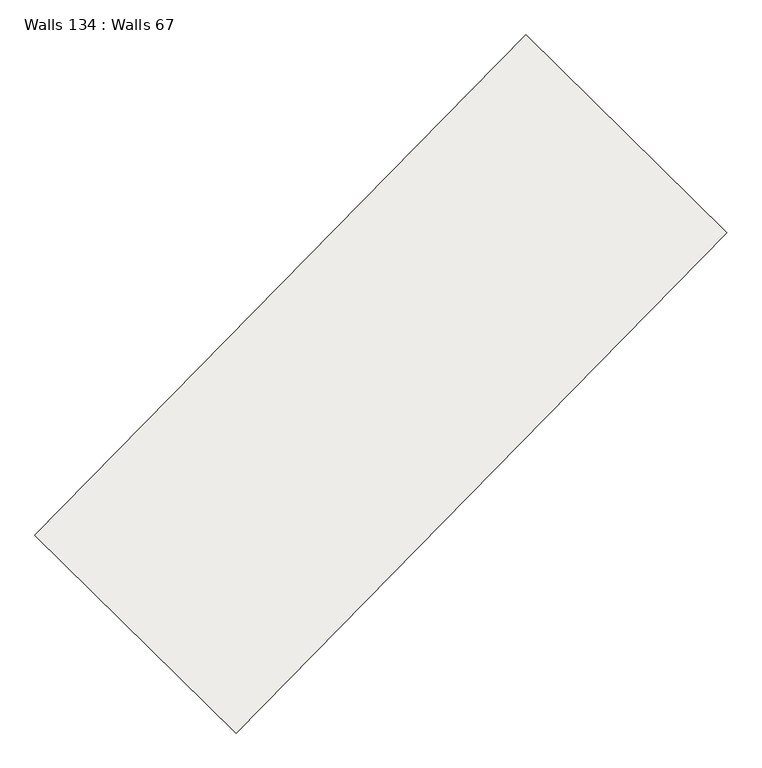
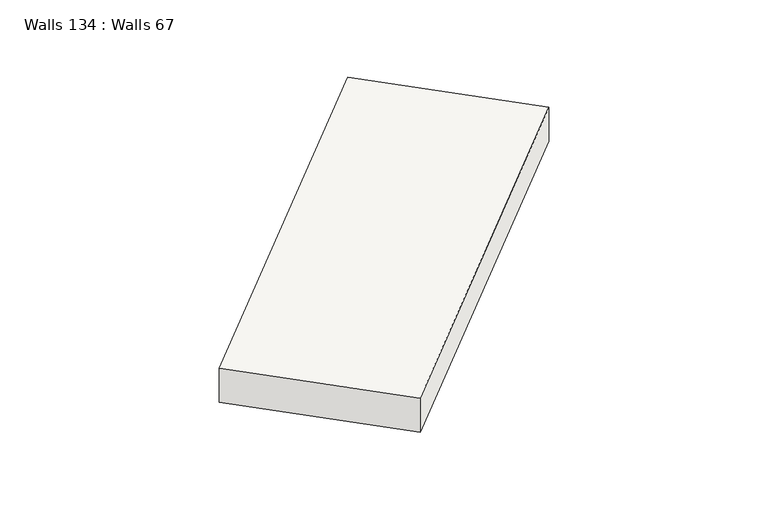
"""IFC4 building model written with IfcOpenShell, lengths in millimetres: slab geometry, Walls 134 : Walls 67."""

from ifc_helpers import new_model, si_unit, frame, origin, place, context, project, spatial, polyline, outline, extrude, source, transform, mapped, element, save


def walls_134_walls_67_9a8bfdf0(model_context):
    return source(origin(), model_context, "Body", "SweptSolid", [
        extrude(outline(polyline([(-350.0, 0.0), (350.0, 0.0), (260.0, -8700.0000009), (-440.0, -8700.0000009), (-350.0, 0.0)])), frame((24352.8632257, -134386.0892202, 638800.0), z_axis=(-0.7137361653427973, 0.7004146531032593, 0.0), x_axis=(0.0, 0.0, 1.0)), (0.0, 0.0, 1.0), 3499.999995),
    ])


if __name__ == "__main__":
    model = new_model("IFC4")
    model_context = context("Model", 3, world=origin())
    ifc_project = project(units=[si_unit("LENGTHUNIT", "METRE", prefix="MILLI")], contexts=[model_context])
    site = spatial("IfcSite", under=ifc_project)
    building = spatial("IfcBuilding", under=site)
    placement = place(None, origin())
    walls_134_walls_67_shape = walls_134_walls_67_9a8bfdf0(model_context)
    element("IfcSlab", 1, ObjectType="Walls 134 : Walls 67", at=placement, inside=building, context=model_context, shape_type="MappedRepresentation", body=[
        mapped(walls_134_walls_67_shape, transform((0.0, 0.0, 0.0), x_axis=(1.0, 0.0, 0.0), y_axis=(0.0, 1.0, 0.0), z_axis=(0.0, 0.0, 1.0))),
    ])
    save(model, "model.ifc")
